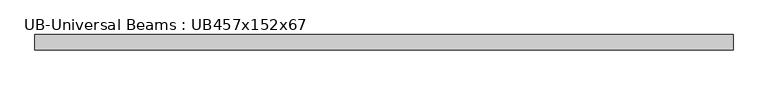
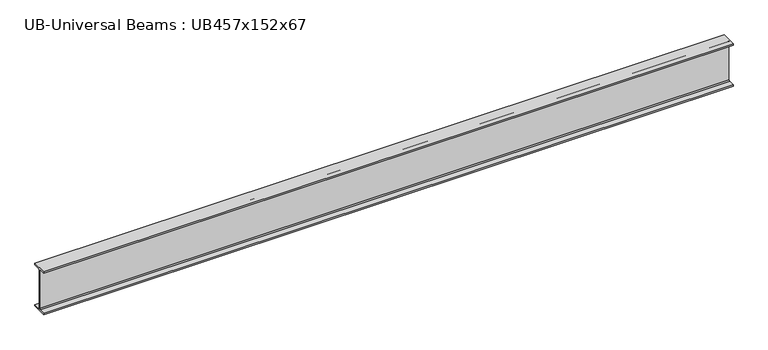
"""IFC4 building model written with IfcOpenShell, lengths in millimetres: beam geometry, UB-Universal Beams : UB457x152x67."""

from ifc_helpers import new_model, si_unit, point, frame, frame_2d, origin, place, context, project, spatial, polyline, circle_curve, trimmed, segment, composite_curve, outline, extrude, source, transform, mapped, element, save


def ub_universal_beams_ub457x152x67_7192e0ee(model_context):
    return source(origin(), model_context, "Body", "SweptSolid", [
        extrude(outline(composite_curve([segment(polyline([(76.9, -214.0), (76.9, -229.0), (-76.9, -229.0), (-76.9, -214.0), (-14.7, -214.0)]), True, "CONTINUOUS"), segment(trimmed(circle_curve(frame_2d((-14.7, -203.8)), 10.2), [point((-14.7, -214.0))], [point((-4.5, -203.8))], True, "CARTESIAN"), True, "CONTINUOUS"), segment(polyline([(-4.5, -203.8), (-4.5, 203.8)]), True, "CONTINUOUS"), segment(trimmed(circle_curve(frame_2d((-14.7, 203.8)), 10.2), [point((-4.5, 203.8))], [point((-14.7, 214.0))], True, "CARTESIAN"), True, "CONTINUOUS"), segment(polyline([(-14.7, 214.0), (-76.9, 214.0), (-76.9, 229.0), (76.9, 229.0), (76.9, 214.0), (14.7, 214.0)]), True, "CONTINUOUS"), segment(trimmed(circle_curve(frame_2d((14.7, 203.8)), 10.2), [point((14.7, 214.0))], [point((4.5, 203.8))], True, "CARTESIAN"), True, "CONTINUOUS"), segment(polyline([(4.5, 203.8), (4.5, -203.8)]), True, "CONTINUOUS"), segment(trimmed(circle_curve(frame_2d((14.7, -203.8)), 10.2), [point((4.5, -203.8))], [point((14.7, -214.0))], True, "CARTESIAN"), True, "CONTINUOUS"), segment(polyline([(14.7, -214.0), (76.9, -214.0)]), True, "CONTINUOUS")], self_intersect=False)), frame((-3496.6, 0.0, 0.0), z_axis=(1.0, 0.0, 0.0), x_axis=(0.0, 1.0, 0.0)), (0.0, 0.0, 1.0), 6996.4),
    ])


if __name__ == "__main__":
    model = new_model("IFC4")
    model_context = context("Model", 3, world=origin())
    ifc_project = project(units=[si_unit("LENGTHUNIT", "METRE", prefix="MILLI")], contexts=[model_context])
    site = spatial("IfcSite", under=ifc_project)
    building = spatial("IfcBuilding", under=site)
    placement = place(None, origin())
    ub_universal_beams_ub457x152x67_shape = ub_universal_beams_ub457x152x67_7192e0ee(model_context)
    element("IfcBeam", 1, ObjectType="UB-Universal Beams : UB457x152x67", at=placement, inside=building, context=model_context, shape_type="MappedRepresentation", body=[
        mapped(ub_universal_beams_ub457x152x67_shape, transform((0.0, 0.0, 0.0), x_axis=(1.0, 0.0, 0.0), y_axis=(0.0, 1.0, 0.0), z_axis=(0.0, 0.0, 1.0))),
    ])
    save(model, "model.ifc")
